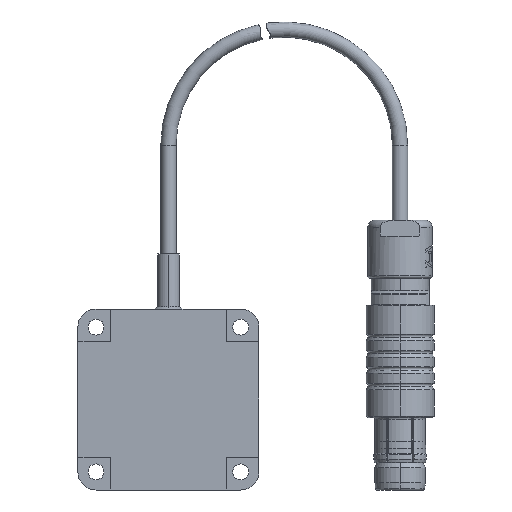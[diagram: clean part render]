
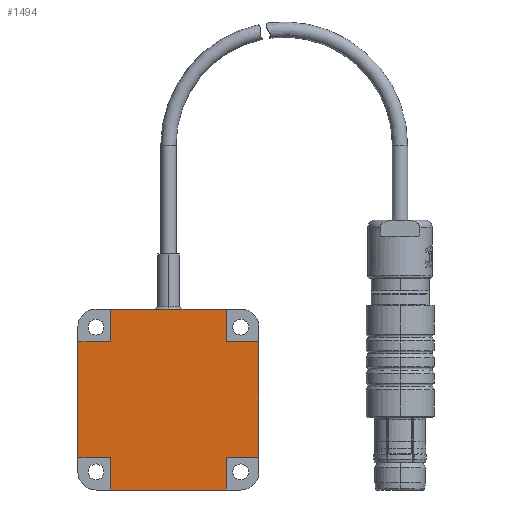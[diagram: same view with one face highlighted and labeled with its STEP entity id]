
A CAD part, front view. The second image highlights one B-rep face of the part: STEP entity #1494.
In plain terms, the highlighted planar face has unit normal (0, -1, 0).
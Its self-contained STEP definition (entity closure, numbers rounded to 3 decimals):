
#255=DIRECTION('',(0.,0.,-1.));
#256=VECTOR('',#255,16.);
#257=CARTESIAN_POINT('',(12.5,0.1,8.));
#258=LINE('',#257,#256);
#290=DIRECTION('',(0.,0.,1.));
#291=VECTOR('',#290,4.5);
#292=CARTESIAN_POINT('',(8.,0.1,8.));
#293=LINE('',#292,#291);
#297=DIRECTION('',(-1.,0.,0.));
#298=VECTOR('',#297,4.5);
#299=CARTESIAN_POINT('',(12.5,0.1,8.));
#300=LINE('',#299,#298);
#304=DIRECTION('',(1.,0.,0.));
#305=VECTOR('',#304,4.5);
#306=CARTESIAN_POINT('',(8.,0.1,-8.));
#307=LINE('',#306,#305);
#311=DIRECTION('',(0.,0.,1.));
#312=VECTOR('',#311,4.5);
#313=CARTESIAN_POINT('',(8.,0.1,-12.5));
#314=LINE('',#313,#312);
#318=DIRECTION('',(0.,0.,-1.));
#319=VECTOR('',#318,4.5);
#320=CARTESIAN_POINT('',(-8.,0.1,-8.));
#321=LINE('',#320,#319);
#325=DIRECTION('',(1.,0.,0.));
#326=VECTOR('',#325,4.5);
#327=CARTESIAN_POINT('',(-12.5,0.1,-8.));
#328=LINE('',#327,#326);
#332=DIRECTION('',(-1.,0.,0.));
#333=VECTOR('',#332,4.5);
#334=CARTESIAN_POINT('',(-8.,0.1,8.));
#335=LINE('',#334,#333);
#339=DIRECTION('',(0.,0.,-1.));
#340=VECTOR('',#339,4.5);
#341=CARTESIAN_POINT('',(-8.,0.1,12.5));
#342=LINE('',#341,#340);
#346=DIRECTION('',(1.,0.,0.));
#347=VECTOR('',#346,16.);
#348=CARTESIAN_POINT('',(-8.,0.1,12.5));
#349=LINE('',#348,#347);
#404=DIRECTION('',(0.,0.,1.));
#405=VECTOR('',#404,16.);
#406=CARTESIAN_POINT('',(-12.5,0.1,-8.));
#407=LINE('',#406,#405);
#446=DIRECTION('',(-1.,0.,0.));
#447=VECTOR('',#446,16.);
#448=CARTESIAN_POINT('',(8.,0.1,-12.5));
#449=LINE('',#448,#447);
#1207=CARTESIAN_POINT('',(-8.,0.1,12.5));
#1208=CARTESIAN_POINT('',(8.,0.1,12.5));
#1209=VERTEX_POINT('',#1207);
#1210=VERTEX_POINT('',#1208);
#1211=CARTESIAN_POINT('',(12.5,0.1,8.));
#1212=CARTESIAN_POINT('',(12.5,0.1,-8.));
#1213=VERTEX_POINT('',#1211);
#1214=VERTEX_POINT('',#1212);
#1215=CARTESIAN_POINT('',(8.,0.1,-12.5));
#1216=CARTESIAN_POINT('',(-8.,0.1,-12.5));
#1217=VERTEX_POINT('',#1215);
#1218=VERTEX_POINT('',#1216);
#1219=CARTESIAN_POINT('',(-12.5,0.1,-8.));
#1220=CARTESIAN_POINT('',(-12.5,0.1,8.));
#1221=VERTEX_POINT('',#1219);
#1222=VERTEX_POINT('',#1220);
#1223=CARTESIAN_POINT('',(8.,0.1,8.));
#1224=VERTEX_POINT('',#1223);
#1225=CARTESIAN_POINT('',(-8.,0.1,8.));
#1226=VERTEX_POINT('',#1225);
#1227=CARTESIAN_POINT('',(-8.,0.1,-8.));
#1228=VERTEX_POINT('',#1227);
#1229=CARTESIAN_POINT('',(8.,0.1,-8.));
#1230=VERTEX_POINT('',#1229);
#1465=CARTESIAN_POINT('',(0.,0.1,0.));
#1466=DIRECTION('',(0.,-1.,0.));
#1467=DIRECTION('',(0.,0.,1.));
#1468=AXIS2_PLACEMENT_3D('',#1465,#1466,#1467);
#1469=PLANE('',#1468);
#1471=ORIENTED_EDGE('',*,*,#1470,.T.);
#1473=ORIENTED_EDGE('',*,*,#1472,.F.);
#1474=ORIENTED_EDGE('',*,*,#1437,.F.);
#1475=ORIENTED_EDGE('',*,*,#1449,.T.);
#1477=ORIENTED_EDGE('',*,*,#1476,.F.);
#1479=ORIENTED_EDGE('',*,*,#1478,.F.);
#1481=ORIENTED_EDGE('',*,*,#1480,.T.);
#1483=ORIENTED_EDGE('',*,*,#1482,.F.);
#1485=ORIENTED_EDGE('',*,*,#1484,.F.);
#1487=ORIENTED_EDGE('',*,*,#1486,.T.);
#1489=ORIENTED_EDGE('',*,*,#1488,.F.);
#1491=ORIENTED_EDGE('',*,*,#1490,.F.);
#1492=EDGE_LOOP('',(#1471,#1473,#1474,#1475,#1477,#1479,#1481,#1483,#1485,#1487,
#1489,#1491));
#1493=FACE_OUTER_BOUND('',#1492,.F.);
#1437=EDGE_CURVE('',#1213,#1224,#300,.T.);
#1449=EDGE_CURVE('',#1213,#1214,#258,.T.);
#1470=EDGE_CURVE('',#1209,#1210,#349,.T.);
#1472=EDGE_CURVE('',#1224,#1210,#293,.T.);
#1476=EDGE_CURVE('',#1230,#1214,#307,.T.);
#1478=EDGE_CURVE('',#1217,#1230,#314,.T.);
#1480=EDGE_CURVE('',#1217,#1218,#449,.T.);
#1482=EDGE_CURVE('',#1228,#1218,#321,.T.);
#1484=EDGE_CURVE('',#1221,#1228,#328,.T.);
#1486=EDGE_CURVE('',#1221,#1222,#407,.T.);
#1488=EDGE_CURVE('',#1226,#1222,#335,.T.);
#1490=EDGE_CURVE('',#1209,#1226,#342,.T.);
#1494=ADVANCED_FACE('',(#1493),#1469,.T.);
